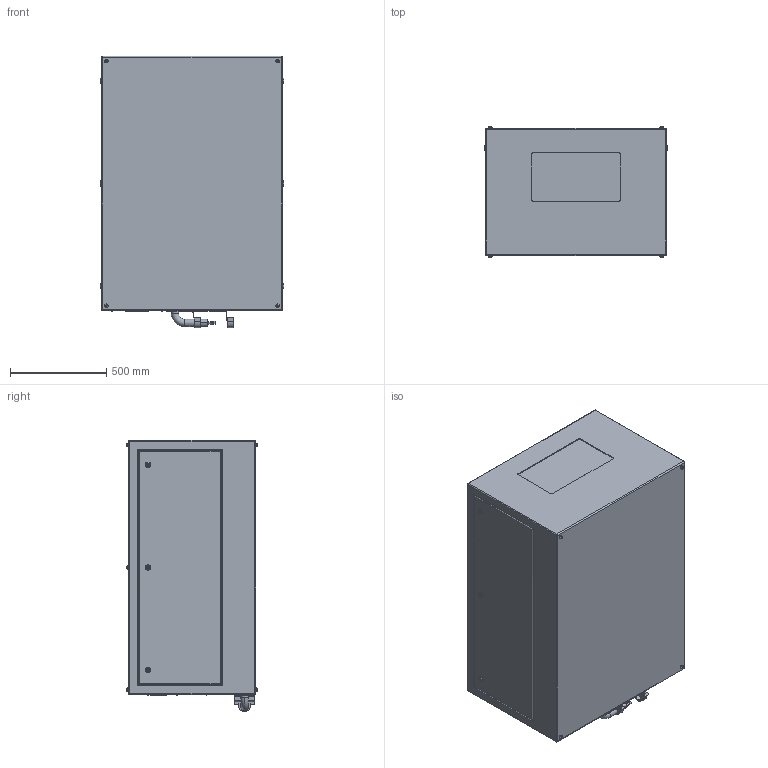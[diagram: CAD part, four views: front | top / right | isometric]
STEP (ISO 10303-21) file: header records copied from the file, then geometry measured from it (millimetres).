
FILE_DESCRIPTION (( 'STEP AP214' ), '1' );
FILE_NAME ('Oasis 59.250.L R02.STEP', '2022-09-12T23:39:33', ( '' ), ( '' ), 'SwSTEP 2.0', 'SolidWorks 2020', '' );
FILE_SCHEMA (( 'AUTOMOTIVE_DESIGN' ));
Length unit declared in the file: inch
Products named in the file (1): Oasis 59.250.L R02
Bounding box: 952.5 x 677.67 x 1409.7 mm (x, y, z)
Volume: 819044243.8 mm3; surface area: 5950939.8 mm2
Topology: 3 solids, 9 shells, 510 faces, 1165 edges, 738 vertices
Faces by surface type: plane 279, cylinder 177, torus 46, bspline 8
Entity records: 19431 total; most frequent: CARTESIAN_POINT 2926, DIRECTION 2539, ORIENTED_EDGE 2314, EDGE_CURVE 1157, AXIS2_PLACEMENT_3D 911, VERTEX_POINT 738, VECTOR 717, LINE 717
